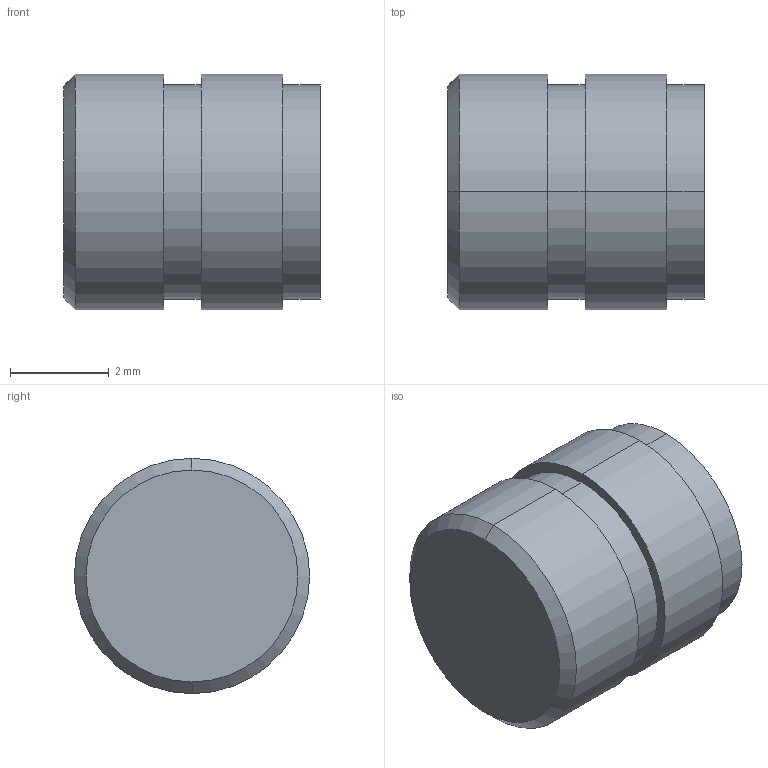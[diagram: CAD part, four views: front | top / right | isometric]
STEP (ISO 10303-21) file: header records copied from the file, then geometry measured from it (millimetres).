
FILE_DESCRIPTION(('starvars output'),'2;1');
FILE_NAME('cv20190725142954000054211.stp','14:29:54 2019/07/25',( 'Thomas Industrial Network Germany GmbH'),( 'Thomas Industrial Network Germany GmbH'),'unknown preprocess','ACIS' ,'unknown authorization');
FILE_SCHEMA(('AUTOMOTIVE_DESIGN_CC2 {UNKNOWN IMPLEMENTATION LEVEL}'));
Length unit declared in the file: millimetre
Products named in the file (1): PRODUCT_ID_1
Bounding box: 5.21 x 4.78 x 4.78 mm (x, y, z)
Volume: 69.9 mm3; surface area: 146.7 mm2
Topology: 1 solids, 1 shells, 24 faces, 48 edges, 29 vertices
Faces by surface type: cylinder 12, plane 6, cone 6
Entity records: 778 total; most frequent: ORIENTED_EDGE 92, CARTESIAN_POINT 76, DIRECTION 76, EDGE_CURVE 46, VERTEX_POINT 29, AXIS2_PLACEMENT_3D 29, EDGE_LOOP 29, FACE_BOUND 29
